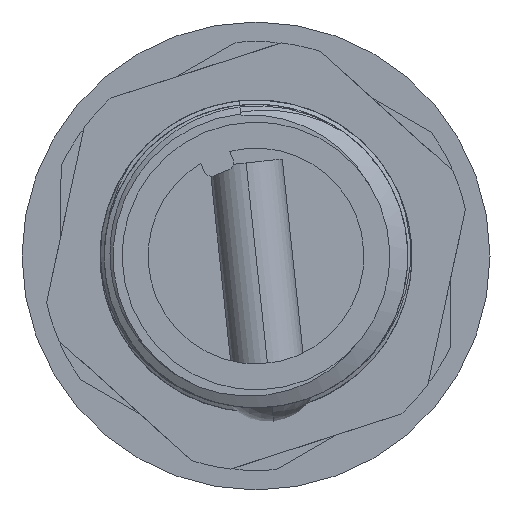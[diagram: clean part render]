
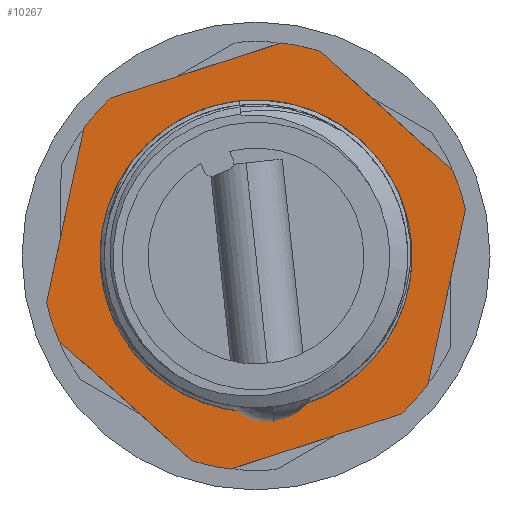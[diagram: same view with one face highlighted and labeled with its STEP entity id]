
A CAD part, front view. The second image highlights one B-rep face of the part: STEP entity #10267.
In plain terms, the highlighted planar face has unit normal (0, -1, 0).
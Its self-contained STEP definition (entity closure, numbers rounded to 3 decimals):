
#49 = CARTESIAN_POINT ( 'NONE',  ( -1.206, -1.11, 60.193 ) ) ;
#59 = ORIENTED_EDGE ( 'NONE', *, *, #14812, .F. ) ;
#71 = DIRECTION ( 'NONE',  ( 0.21, 0., 0.978 ) ) ;
#163 = CARTESIAN_POINT ( 'NONE',  ( -7.748, -1.11, 58.084 ) ) ;
#330 = CARTESIAN_POINT ( 'NONE',  ( -8.786, -1.11, 56.937 ) ) ;
#421 = VERTEX_POINT ( 'NONE', #3647 ) ;
#453 = DIRECTION ( 'NONE',  ( 0.21, 0., 0.978 ) ) ;
#631 = FACE_OUTER_BOUND ( 'NONE', #4924, .T. ) ;
#869 = VERTEX_POINT ( 'NONE', #11287 ) ;
#1187 = AXIS2_PLACEMENT_3D ( 'NONE', #14441, #7759, #10100 ) ;
#1472 = CIRCLE ( 'NONE', #9264, 8.25 ) ;
#1696 = DIRECTION ( 'NONE',  ( 0.21, 0., 0.978 ) ) ;
#1776 = DIRECTION ( 'NONE',  ( 0.21, 0., 0.978 ) ) ;
#1968 = PLANE ( 'NONE',  #3215 ) ;
#2011 = EDGE_CURVE ( 'NONE', #7836, #3291, #3311, .T. ) ;
#2377 = EDGE_LOOP ( 'NONE', ( #11203, #13296 ) ) ;
#2567 = ORIENTED_EDGE ( 'NONE', *, *, #13645, .F. ) ;
#2663 = ORIENTED_EDGE ( 'NONE', *, *, #4547, .F. ) ;
#2691 = EDGE_CURVE ( 'NONE', #5795, #3372, #11145, .T. ) ;
#2987 = DIRECTION ( 'NONE',  ( 0.952, 0., 0.307 ) ) ;
#3039 = LINE ( 'NONE', #14797, #14796 ) ;
#3117 = ORIENTED_EDGE ( 'NONE', *, *, #2011, .F. ) ;
#3150 = VERTEX_POINT ( 'NONE', #3423 ) ;
#3215 = AXIS2_PLACEMENT_3D ( 'NONE', #4213, #5366, #1776 ) ;
#3218 = CIRCLE ( 'NONE', #6997, 8.25 ) ;
#3291 = VERTEX_POINT ( 'NONE', #163 ) ;
#3311 = CIRCLE ( 'NONE', #7134, 8.25 ) ;
#3372 = VERTEX_POINT ( 'NONE', #3930 ) ;
#3423 = CARTESIAN_POINT ( 'NONE',  ( -10.231, -1.11, 50.216 ) ) ;
#3434 = EDGE_CURVE ( 'NONE', #5159, #3150, #1472, .T. ) ;
#3590 = LINE ( 'NONE', #6385, #14277 ) ;
#3647 = CARTESIAN_POINT ( 'NONE',  ( 0.307, -1.11, 59.868 ) ) ;
#3915 = EDGE_CURVE ( 'NONE', #8373, #10683, #13588, .T. ) ;
#3930 = CARTESIAN_POINT ( 'NONE',  ( -4.659, -1.11, 44.132 ) ) ;
#4013 = CARTESIAN_POINT ( 'NONE',  ( 4.246, -1.11, 46.19 ) ) ;
#4018 = EDGE_CURVE ( 'NONE', #6170, #9614, #10948, .T. ) ;
#4061 = VECTOR ( 'NONE', #6146, 1000. ) ;
#4213 = CARTESIAN_POINT ( 'NONE',  ( -2.176, -1.11, 52. ) ) ;
#4413 = AXIS2_PLACEMENT_3D ( 'NONE', #13323, #8805, #14525 ) ;
#4547 = EDGE_CURVE ( 'NONE', #13493, #421, #13910, .T. ) ;
#4588 = DIRECTION ( 'NONE',  ( -0.21, 0., -0.978 ) ) ;
#4751 = CARTESIAN_POINT ( 'NONE',  ( -1.02, -1.11, 57.377 ) ) ;
#4924 = EDGE_LOOP ( 'NONE', ( #13188, #2567, #2663, #14364, #6564, #3117, #12824, #7470, #59, #9187, #6379, #7652, #14612 ) ) ;
#5039 = LINE ( 'NONE', #9469, #10746 ) ;
#5159 = VERTEX_POINT ( 'NONE', #11279 ) ;
#5174 = DIRECTION ( 'NONE',  ( 0.21, 0., 0.978 ) ) ;
#5189 = DIRECTION ( 'NONE',  ( 0.742, 0., -0.671 ) ) ;
#5211 = EDGE_CURVE ( 'NONE', #7926, #6170, #3039, .T. ) ;
#5366 = DIRECTION ( 'NONE',  ( 0., 1., 0. ) ) ;
#5377 = DIRECTION ( 'NONE',  ( 0.21, 0., 0.978 ) ) ;
#5683 = CARTESIAN_POINT ( 'NONE',  ( 4.434, -1.11, 47.063 ) ) ;
#5795 = VERTEX_POINT ( 'NONE', #14721 ) ;
#5889 = DIRECTION ( 'NONE',  ( 0., 1., 0. ) ) ;
#6116 = DIRECTION ( 'NONE',  ( 0., 1., 0. ) ) ;
#6146 = DIRECTION ( 'NONE',  ( -0.952, 0., -0.307 ) ) ;
#6170 = VERTEX_POINT ( 'NONE', #5683 ) ;
#6210 = DIRECTION ( 'NONE',  ( 0., 1., 0. ) ) ;
#6232 = CARTESIAN_POINT ( 'NONE',  ( -2.176, -1.11, 52. ) ) ;
#6313 = CARTESIAN_POINT ( 'NONE',  ( -3.996, -1.11, 43.533 ) ) ;
#6333 = DIRECTION ( 'NONE',  ( 0., 1., 0. ) ) ;
#6368 = CIRCLE ( 'NONE', #1187, 5.5 ) ;
#6379 = ORIENTED_EDGE ( 'NONE', *, *, #12706, .F. ) ;
#6385 = CARTESIAN_POINT ( 'NONE',  ( -8.598, -1.11, 57.81 ) ) ;
#6404 = VERTEX_POINT ( 'NONE', #49 ) ;
#6509 = DIRECTION ( 'NONE',  ( 0., 1., 0. ) ) ;
#6564 = ORIENTED_EDGE ( 'NONE', *, *, #13736, .F. ) ;
#6997 = AXIS2_PLACEMENT_3D ( 'NONE', #12623, #5889, #13905 ) ;
#7021 = EDGE_CURVE ( 'NONE', #3150, #7836, #10589, .T. ) ;
#7072 = LINE ( 'NONE', #4013, #4061 ) ;
#7134 = AXIS2_PLACEMENT_3D ( 'NONE', #14112, #6210, #5174 ) ;
#7302 = VECTOR ( 'NONE', #13034, 1000. ) ;
#7470 = ORIENTED_EDGE ( 'NONE', *, *, #3434, .F. ) ;
#7556 = VECTOR ( 'NONE', #71, 1000. ) ;
#7652 = ORIENTED_EDGE ( 'NONE', *, *, #4018, .F. ) ;
#7759 = DIRECTION ( 'NONE',  ( 0., 1., 0. ) ) ;
#7836 = VERTEX_POINT ( 'NONE', #330 ) ;
#7926 = VERTEX_POINT ( 'NONE', #11915 ) ;
#8286 = EDGE_CURVE ( 'NONE', #6404, #13493, #3218, .T. ) ;
#8373 = VERTEX_POINT ( 'NONE', #4751 ) ;
#8483 = FACE_BOUND ( 'NONE', #2377, .T. ) ;
#8606 = AXIS2_PLACEMENT_3D ( 'NONE', #10048, #11032, #10931 ) ;
#8805 = DIRECTION ( 'NONE',  ( 0., 1., 0. ) ) ;
#9187 = ORIENTED_EDGE ( 'NONE', *, *, #2691, .F. ) ;
#9264 = AXIS2_PLACEMENT_3D ( 'NONE', #13376, #6509, #5377 ) ;
#9469 = CARTESIAN_POINT ( 'NONE',  ( -0.355, -1.11, 60.467 ) ) ;
#9614 = VERTEX_POINT ( 'NONE', #11726 ) ;
#9746 = EDGE_CURVE ( 'NONE', #10683, #8373, #6368, .T. ) ;
#9781 = DIRECTION ( 'NONE',  ( 0.21, 0., 0.978 ) ) ;
#9844 = AXIS2_PLACEMENT_3D ( 'NONE', #10839, #10638, #453 ) ;
#10048 = CARTESIAN_POINT ( 'NONE',  ( -2.176, -1.11, 52. ) ) ;
#10100 = DIRECTION ( 'NONE',  ( 0.21, 0., 0.978 ) ) ;
#10267 = ADVANCED_FACE ( 'NONE', ( #8483, #631 ), #1968, .F. ) ;
#10589 = LINE ( 'NONE', #11384, #7556 ) ;
#10638 = DIRECTION ( 'NONE',  ( 0., 1., 0. ) ) ;
#10683 = VERTEX_POINT ( 'NONE', #11729 ) ;
#10746 = VECTOR ( 'NONE', #5189, 1000. ) ;
#10839 = CARTESIAN_POINT ( 'NONE',  ( -2.176, -1.11, 52. ) ) ;
#10931 = DIRECTION ( 'NONE',  ( 0.21, 0., 0.978 ) ) ;
#10948 = CIRCLE ( 'NONE', #8606, 8.25 ) ;
#11032 = DIRECTION ( 'NONE',  ( 0., 1., 0. ) ) ;
#11067 = CIRCLE ( 'NONE', #9844, 8.25 ) ;
#11145 = CIRCLE ( 'NONE', #12409, 8.25 ) ;
#11203 = ORIENTED_EDGE ( 'NONE', *, *, #3915, .T. ) ;
#11279 = CARTESIAN_POINT ( 'NONE',  ( -9.756, -1.11, 48.744 ) ) ;
#11287 = CARTESIAN_POINT ( 'NONE',  ( 5.404, -1.11, 55.256 ) ) ;
#11384 = CARTESIAN_POINT ( 'NONE',  ( -10.418, -1.11, 49.343 ) ) ;
#11466 = EDGE_CURVE ( 'NONE', #869, #7926, #11067, .T. ) ;
#11656 = AXIS2_PLACEMENT_3D ( 'NONE', #12017, #6333, #9781 ) ;
#11726 = CARTESIAN_POINT ( 'NONE',  ( 3.396, -1.11, 45.916 ) ) ;
#11729 = CARTESIAN_POINT ( 'NONE',  ( -3.332, -1.11, 46.623 ) ) ;
#11915 = CARTESIAN_POINT ( 'NONE',  ( 5.879, -1.11, 53.784 ) ) ;
#12017 = CARTESIAN_POINT ( 'NONE',  ( -2.176, -1.11, 52. ) ) ;
#12409 = AXIS2_PLACEMENT_3D ( 'NONE', #6232, #6116, #1696 ) ;
#12623 = CARTESIAN_POINT ( 'NONE',  ( -2.176, -1.11, 52. ) ) ;
#12706 = EDGE_CURVE ( 'NONE', #9614, #5795, #7072, .T. ) ;
#12824 = ORIENTED_EDGE ( 'NONE', *, *, #7021, .F. ) ;
#12842 = LINE ( 'NONE', #6313, #7302 ) ;
#12853 = CARTESIAN_POINT ( 'NONE',  ( -0.442, -1.11, 60.066 ) ) ;
#13034 = DIRECTION ( 'NONE',  ( -0.742, 0., 0.671 ) ) ;
#13188 = ORIENTED_EDGE ( 'NONE', *, *, #11466, .F. ) ;
#13296 = ORIENTED_EDGE ( 'NONE', *, *, #9746, .T. ) ;
#13323 = CARTESIAN_POINT ( 'NONE',  ( -2.176, -1.11, 52. ) ) ;
#13376 = CARTESIAN_POINT ( 'NONE',  ( -2.176, -1.11, 52. ) ) ;
#13493 = VERTEX_POINT ( 'NONE', #12853 ) ;
#13588 = CIRCLE ( 'NONE', #11656, 5.5 ) ;
#13645 = EDGE_CURVE ( 'NONE', #421, #869, #5039, .T. ) ;
#13736 = EDGE_CURVE ( 'NONE', #3291, #6404, #3590, .T. ) ;
#13905 = DIRECTION ( 'NONE',  ( 0.21, 0., 0.978 ) ) ;
#13910 = CIRCLE ( 'NONE', #4413, 8.25 ) ;
#14112 = CARTESIAN_POINT ( 'NONE',  ( -2.176, -1.11, 52. ) ) ;
#14277 = VECTOR ( 'NONE', #2987, 1000. ) ;
#14364 = ORIENTED_EDGE ( 'NONE', *, *, #8286, .F. ) ;
#14441 = CARTESIAN_POINT ( 'NONE',  ( -2.176, -1.11, 52. ) ) ;
#14525 = DIRECTION ( 'NONE',  ( 0.21, 0., 0.978 ) ) ;
#14612 = ORIENTED_EDGE ( 'NONE', *, *, #5211, .F. ) ;
#14721 = CARTESIAN_POINT ( 'NONE',  ( -3.146, -1.11, 43.807 ) ) ;
#14796 = VECTOR ( 'NONE', #4588, 1000. ) ;
#14797 = CARTESIAN_POINT ( 'NONE',  ( 6.067, -1.11, 54.657 ) ) ;
#14812 = EDGE_CURVE ( 'NONE', #3372, #5159, #12842, .T. ) ;
